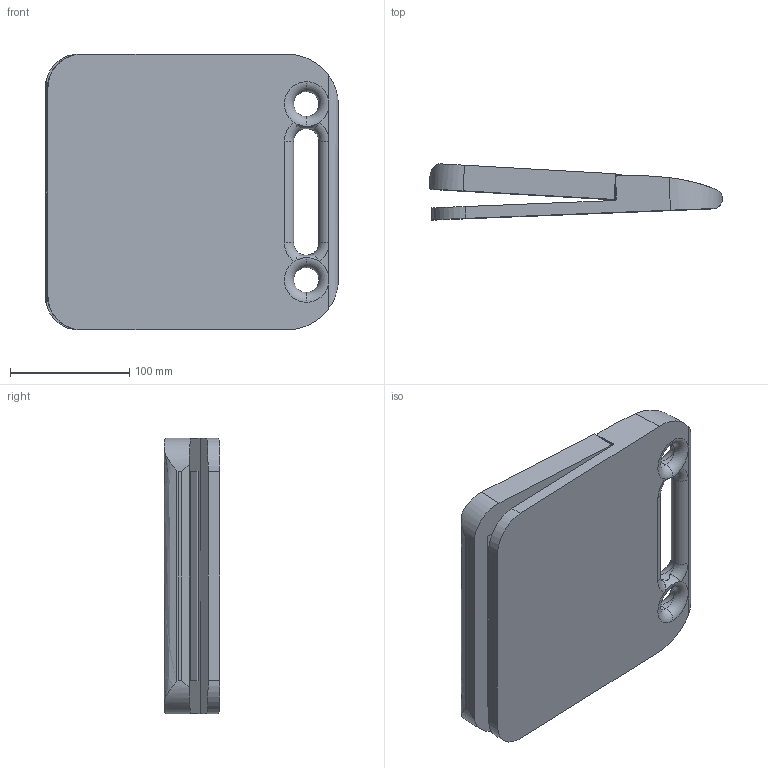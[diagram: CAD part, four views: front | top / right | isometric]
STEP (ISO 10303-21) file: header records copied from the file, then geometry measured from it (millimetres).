
FILE_DESCRIPTION (( 'STEP AP214' ), '1' );
FILE_NAME ('zwiebel_xo_rough.STEP', '2009-11-01T02:47:40', ( '' ), ( '' ), 'SwSTEP 2.0', 'SolidWorks 2009', '' );
FILE_SCHEMA (( 'AUTOMOTIVE_DESIGN' ));
Length unit declared in the file: millimetre
Products named in the file (4): xo_screen_keyboard_joint; xo_screen_main_v1; xo_keyboard_handle; zwiebel_xo_rough
Assembly tree (3 placements, depth 2):
  zwiebel_xo_rough
    xo_keyboard_handle
    xo_screen_main_v1
    xo_screen_keyboard_joint
Bounding box: 245.91 x 46.97 x 231.78 mm (x, y, z)
Volume: 1531025.6 mm3; surface area: 220168.9 mm2
Topology: 4 solids, 4 shells, 98 faces, 246 edges, 156 vertices
Faces by surface type: cylinder 42, plane 36, bspline 12, torus 8
Entity records: 5245 total; most frequent: CARTESIAN_POINT 2509, ORIENTED_EDGE 492, DIRECTION 478, EDGE_CURVE 246, AXIS2_PLACEMENT_3D 186, VERTEX_POINT 156, LINE 106, VECTOR 106
